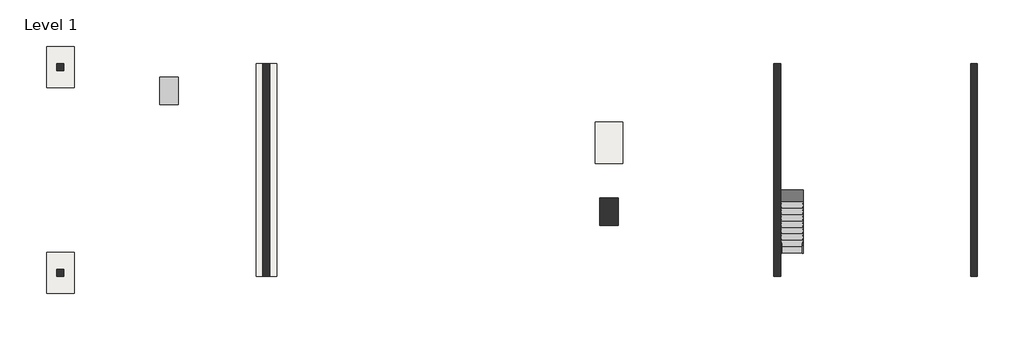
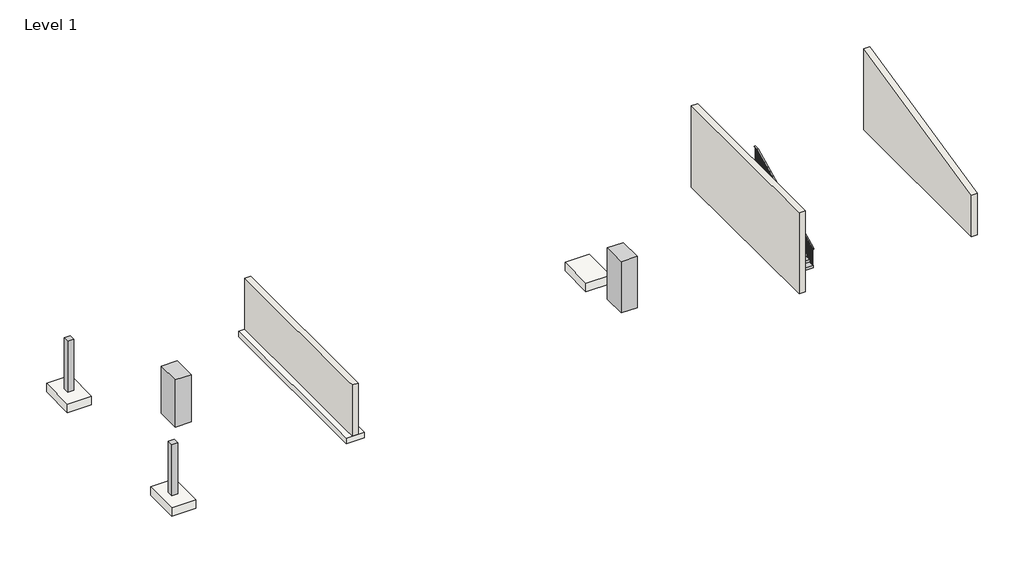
# One storey, incomplete: 4 columns, 3 slabs, 3 walls, 2 railings, 1 footing, 1 stair flight.
"""IFC4 building model written with IfcOpenShell, lengths in millimetres."""

from ifc_helpers import new_model, si_unit, frame, origin, origin_with_axes, place, context, project, spatial, polyline, outline, extrude, faceted_brep, transform, mapped, element, save
from components import m_concrete_rectangular_column_600_x_750mm_d22e657e, m_concrete_rectangular_column_600_x_750mm_b28e52ee, m_footing_rectangular_1800_x_1200_x_450mm_16ba7ea5

model = new_model("IFC4")

# Units and contexts
model_context = context("Model", 3, world=origin())
ifc_project = project(units=[si_unit("LENGTHUNIT", "METRE", prefix="MILLI")], contexts=[model_context])

# Site, building, storey
site = spatial("IfcSite", under=ifc_project)
building = spatial("IfcBuilding", under=site)
storey = spatial("IfcBuildingStorey", under=building, Name="Level 1", Elevation=0.0)

# Columns
placement = place(None, origin())
m_concrete_rectangular_column_600_x_750mm_shape = m_concrete_rectangular_column_600_x_750mm_d22e657e(model_context)
element("IfcColumn", 1, ObjectType="M_Concrete-Rectangular-Column : 600 x 750mm", at=placement, inside=storey, context=model_context, shape_type="MappedRepresentation", body=[
    mapped(m_concrete_rectangular_column_600_x_750mm_shape, transform((2063.6329779, -500.8037364, 0.0), x_axis=(1.0, 0.0, 0.0), y_axis=(0.0, 1.0, 0.0), z_axis=(0.0, 0.0, 1.0))),
])
m_concrete_rectangular_column_600_x_750mm_2_shape = m_concrete_rectangular_column_600_x_750mm_b28e52ee(model_context)
element("IfcColumn", 2, ObjectType="M_Concrete-Rectangular-Column : 600 x 750mm", at=placement, inside=storey, context=model_context, shape_type="MappedRepresentation", body=[
    mapped(m_concrete_rectangular_column_600_x_750mm_2_shape, transform((-17149.5589359, 4764.3262593, 0.0), x_axis=(1.0, 0.0, 0.0), y_axis=(0.0, 1.0, 0.0), z_axis=(0.0, 0.0, 1.0))),
])
element("IfcColumn", 3, ObjectType="M_Concrete-Square-Column : 300 x 300mm", at=placement, inside=storey, context=model_context, shape_type="SweptSolid", body=[
    extrude(outline(polyline([(-21749.5589359, 5964.3262593), (-21749.5589359, 5664.3262593), (-22049.5589359, 5664.3262593), (-22049.5589359, 5964.3262593), (-21749.5589359, 5964.3262593)])), origin_with_axes(), (0.0, 0.0, 1.0), 2700.0),
])
element("IfcColumn", 4, ObjectType="M_Concrete-Square-Column : 300 x 300mm", at=placement, inside=storey, context=model_context, shape_type="SweptSolid", body=[
    extrude(outline(polyline([(-21749.5589359, -3035.6737407), (-21749.5589359, -3335.6737407), (-22049.5589359, -3335.6737407), (-22049.5589359, -3035.6737407), (-21749.5589359, -3035.6737407)])), origin_with_axes(), (0.0, 0.0, 1.0), 2700.0),
])

# Footing
element("IfcFooting", 5, ObjectType="Bearing Footing - 900 x 300", at=placement, inside=storey, context=model_context, shape_type="SweptSolid", body=[
    extrude(outline(polyline([(-13349.5589359, 5964.3262593), (-12449.5589359, 5964.3262593), (-12449.5589359, -3335.6737407), (-13349.5589359, -3335.6737407), (-13349.5589359, 5964.3262593)])), frame((0.0, 0.0, -300.0), z_axis=(0.0, 0.0, 1.0), x_axis=(1.0, 0.0, 0.0)), (0.0, 0.0, 1.0), 300.0),
])

# Railings
element("IfcRailing", 6, ObjectType="900mm", at=placement, inside=storey, context=model_context, shape_type="SolidModel", body=[
    faceted_brep([(10500.0410641, -2335.6737407, 1038.8888889), (10500.0410641, -2335.6737407, 983.0756402), (10550.0410641, -2335.6737407, 983.0756402), (10550.0410641, -2335.6737407, 1038.8888889), (10500.0410641, 2424.3262593, 3400.0), (10500.0410641, 2436.0457687, 3350.0), (10550.0410641, 2436.0457687, 3350.0), (10550.0410641, 2424.3262593, 3400.0), (10500.0410641, 2704.3262593, 3400.0), (10550.0410641, 2704.3262593, 3400.0), (10550.0410641, 2704.3262593, 3350.0), (10500.0410641, 2704.3262593, 3350.0)], [[[0, 1, 2, 3]], [[1, 0, 4, 5]], [[2, 1, 5, 6]], [[3, 2, 6, 7]], [[0, 3, 7, 4]], [[8, 9, 10, 11]], [[5, 4, 8, 11]], [[6, 5, 11, 10]], [[7, 6, 10, 9]], [[4, 7, 9, 8]]]),
    extrude(outline(polyline([(10535.0410641, 2624.3262593), (10515.0410641, 2624.3262593), (10515.0410641, 2644.3262593), (10535.0410641, 2644.3262593), (10535.0410641, 2624.3262593)])), frame((0.0, 0.0, 2500.0), z_axis=(0.0, 0.0, 1.0), x_axis=(1.0, 0.0, 0.0)), (0.0, 0.0, 1.0), 850.0),
    extrude(outline(polyline([(10535.0410641, 2484.3262593), (10515.0410641, 2484.3262593), (10515.0410641, 2504.3262593), (10535.0410641, 2504.3262593), (10535.0410641, 2484.3262593)])), frame((0.0, 0.0, 2500.0), z_axis=(0.0, 0.0, 1.0), x_axis=(1.0, 0.0, 0.0)), (0.0, 0.0, 1.0), 850.0),
    extrude(outline(polyline([(2344.3262593, 2361.1111111), (2344.3262593, 3304.5042116), (2364.3262593, 3314.4248465), (2364.3262593, 2361.1111111), (2344.3262593, 2361.1111111)])), frame((10515.0410641, 0.0, 0.0), z_axis=(1.0, 0.0, 0.0), x_axis=(0.0, 1.0, 0.0)), (0.0, 0.0, 1.0), 20.0),
    extrude(outline(polyline([(2204.3262593, 2361.1111111), (2204.3262593, 3235.0597672), (2224.3262593, 3244.9804021), (2224.3262593, 2361.1111111), (2204.3262593, 2361.1111111)])), frame((10515.0410641, 0.0, 0.0), z_axis=(1.0, 0.0, 0.0), x_axis=(0.0, 1.0, 0.0)), (0.0, 0.0, 1.0), 20.0),
    extrude(outline(polyline([(2064.3262593, 2222.2222222), (2064.3262593, 3165.6153227), (2084.3262593, 3175.5359576), (2084.3262593, 2222.2222222), (2064.3262593, 2222.2222222)])), frame((10515.0410641, 0.0, 0.0), z_axis=(1.0, 0.0, 0.0), x_axis=(0.0, 1.0, 0.0)), (0.0, 0.0, 1.0), 20.0),
    extrude(outline(polyline([(1924.3262593, 2222.2222222), (1924.3262593, 3096.1708783), (1944.3262593, 3106.0915132), (1944.3262593, 2222.2222222), (1924.3262593, 2222.2222222)])), frame((10515.0410641, 0.0, 0.0), z_axis=(1.0, 0.0, 0.0), x_axis=(0.0, 1.0, 0.0)), (0.0, 0.0, 1.0), 20.0),
    extrude(outline(polyline([(1784.3262593, 2083.3333333), (1784.3262593, 3026.7264338), (1804.3262593, 3036.6470687), (1804.3262593, 2083.3333333), (1784.3262593, 2083.3333333)])), frame((10515.0410641, 0.0, 0.0), z_axis=(1.0, 0.0, 0.0), x_axis=(0.0, 1.0, 0.0)), (0.0, 0.0, 1.0), 20.0),
    extrude(outline(polyline([(1644.3262593, 2083.3333333), (1644.3262593, 2957.2819894), (1664.3262593, 2967.2026243), (1664.3262593, 2083.3333333), (1644.3262593, 2083.3333333)])), frame((10515.0410641, 0.0, 0.0), z_axis=(1.0, 0.0, 0.0), x_axis=(0.0, 1.0, 0.0)), (0.0, 0.0, 1.0), 20.0),
    extrude(outline(polyline([(1504.3262593, 1944.4444444), (1504.3262593, 2887.8375449), (1524.3262593, 2897.7581799), (1524.3262593, 1944.4444444), (1504.3262593, 1944.4444444)])), frame((10515.0410641, 0.0, 0.0), z_axis=(1.0, 0.0, 0.0), x_axis=(0.0, 1.0, 0.0)), (0.0, 0.0, 1.0), 20.0),
    extrude(outline(polyline([(1364.3262593, 1944.4444444), (1364.3262593, 2818.3931005), (1384.3262593, 2828.3137354), (1384.3262593, 1944.4444444), (1364.3262593, 1944.4444444)])), frame((10515.0410641, 0.0, 0.0), z_axis=(1.0, 0.0, 0.0), x_axis=(0.0, 1.0, 0.0)), (0.0, 0.0, 1.0), 20.0),
    extrude(outline(polyline([(1224.3262593, 1805.5555556), (1224.3262593, 2748.948656), (1244.3262593, 2758.869291), (1244.3262593, 1805.5555556), (1224.3262593, 1805.5555556)])), frame((10515.0410641, 0.0, 0.0), z_axis=(1.0, 0.0, 0.0), x_axis=(0.0, 1.0, 0.0)), (0.0, 0.0, 1.0), 20.0),
    extrude(outline(polyline([(1084.3262593, 1805.5555556), (1084.3262593, 2679.5042116), (1104.3262593, 2689.4248465), (1104.3262593, 1805.5555556), (1084.3262593, 1805.5555556)])), frame((10515.0410641, 0.0, 0.0), z_axis=(1.0, 0.0, 0.0), x_axis=(0.0, 1.0, 0.0)), (0.0, 0.0, 1.0), 20.0),
    extrude(outline(polyline([(944.3262593, 1666.6666667), (944.3262593, 2610.0597672), (964.3262593, 2619.9804021), (964.3262593, 1666.6666667), (944.3262593, 1666.6666667)])), frame((10515.0410641, 0.0, 0.0), z_axis=(1.0, 0.0, 0.0), x_axis=(0.0, 1.0, 0.0)), (0.0, 0.0, 1.0), 20.0),
    extrude(outline(polyline([(804.3262593, 1666.6666667), (804.3262593, 2540.6153227), (824.3262593, 2550.5359576), (824.3262593, 1666.6666667), (804.3262593, 1666.6666667)])), frame((10515.0410641, 0.0, 0.0), z_axis=(1.0, 0.0, 0.0), x_axis=(0.0, 1.0, 0.0)), (0.0, 0.0, 1.0), 20.0),
    extrude(outline(polyline([(664.3262593, 1527.7777778), (664.3262593, 2471.1708783), (684.3262593, 2481.0915132), (684.3262593, 1527.7777778), (664.3262593, 1527.7777778)])), frame((10515.0410641, 0.0, 0.0), z_axis=(1.0, 0.0, 0.0), x_axis=(0.0, 1.0, 0.0)), (0.0, 0.0, 1.0), 20.0),
    extrude(outline(polyline([(524.3262593, 1527.7777778), (524.3262593, 2401.7264338), (544.3262593, 2411.6470687), (544.3262593, 1527.7777778), (524.3262593, 1527.7777778)])), frame((10515.0410641, 0.0, 0.0), z_axis=(1.0, 0.0, 0.0), x_axis=(0.0, 1.0, 0.0)), (0.0, 0.0, 1.0), 20.0),
    extrude(outline(polyline([(384.3262593, 1388.8888889), (384.3262593, 2332.2819894), (404.3262593, 2342.2026243), (404.3262593, 1388.8888889), (384.3262593, 1388.8888889)])), frame((10515.0410641, 0.0, 0.0), z_axis=(1.0, 0.0, 0.0), x_axis=(0.0, 1.0, 0.0)), (0.0, 0.0, 1.0), 20.0),
    extrude(outline(polyline([(244.3262593, 1388.8888889), (244.3262593, 2262.8375449), (264.3262593, 2272.7581799), (264.3262593, 1388.8888889), (244.3262593, 1388.8888889)])), frame((10515.0410641, 0.0, 0.0), z_axis=(1.0, 0.0, 0.0), x_axis=(0.0, 1.0, 0.0)), (0.0, 0.0, 1.0), 20.0),
    extrude(outline(polyline([(104.3262593, 1250.0), (104.3262593, 2193.3931005), (124.3262593, 2203.3137354), (124.3262593, 1250.0), (104.3262593, 1250.0)])), frame((10515.0410641, 0.0, 0.0), z_axis=(1.0, 0.0, 0.0), x_axis=(0.0, 1.0, 0.0)), (0.0, 0.0, 1.0), 20.0),
    extrude(outline(polyline([(-35.6737407, 1250.0), (-35.6737407, 2123.948656), (-15.6737407, 2133.869291), (-15.6737407, 1250.0), (-35.6737407, 1250.0)])), frame((10515.0410641, 0.0, 0.0), z_axis=(1.0, 0.0, 0.0), x_axis=(0.0, 1.0, 0.0)), (0.0, 0.0, 1.0), 20.0),
    extrude(outline(polyline([(-175.6737407, 1111.1111111), (-175.6737407, 2054.5042116), (-155.6737407, 2064.4248465), (-155.6737407, 1111.1111111), (-175.6737407, 1111.1111111)])), frame((10515.0410641, 0.0, 0.0), z_axis=(1.0, 0.0, 0.0), x_axis=(0.0, 1.0, 0.0)), (0.0, 0.0, 1.0), 20.0),
    extrude(outline(polyline([(-315.6737407, 1111.1111111), (-315.6737407, 1985.0597672), (-295.6737407, 1994.9804021), (-295.6737407, 1111.1111111), (-315.6737407, 1111.1111111)])), frame((10515.0410641, 0.0, 0.0), z_axis=(1.0, 0.0, 0.0), x_axis=(0.0, 1.0, 0.0)), (0.0, 0.0, 1.0), 20.0),
    extrude(outline(polyline([(-455.6737407, 972.2222222), (-455.6737407, 1915.6153227), (-435.6737407, 1925.5359576), (-435.6737407, 972.2222222), (-455.6737407, 972.2222222)])), frame((10515.0410641, 0.0, 0.0), z_axis=(1.0, 0.0, 0.0), x_axis=(0.0, 1.0, 0.0)), (0.0, 0.0, 1.0), 20.0),
    extrude(outline(polyline([(-595.6737407, 972.2222222), (-595.6737407, 1846.1708783), (-575.6737407, 1856.0915132), (-575.6737407, 972.2222222), (-595.6737407, 972.2222222)])), frame((10515.0410641, 0.0, 0.0), z_axis=(1.0, 0.0, 0.0), x_axis=(0.0, 1.0, 0.0)), (0.0, 0.0, 1.0), 20.0),
    extrude(outline(polyline([(-735.6737407, 833.3333333), (-735.6737407, 1776.7264338), (-715.6737407, 1786.6470687), (-715.6737407, 833.3333333), (-735.6737407, 833.3333333)])), frame((10515.0410641, 0.0, 0.0), z_axis=(1.0, 0.0, 0.0), x_axis=(0.0, 1.0, 0.0)), (0.0, 0.0, 1.0), 20.0),
    extrude(outline(polyline([(-875.6737407, 833.3333333), (-875.6737407, 1707.2819894), (-855.6737407, 1717.2026243), (-855.6737407, 833.3333333), (-875.6737407, 833.3333333)])), frame((10515.0410641, 0.0, 0.0), z_axis=(1.0, 0.0, 0.0), x_axis=(0.0, 1.0, 0.0)), (0.0, 0.0, 1.0), 20.0),
    extrude(outline(polyline([(-1015.6737407, 694.4444444), (-1015.6737407, 1637.8375449), (-995.6737407, 1647.7581799), (-995.6737407, 694.4444444), (-1015.6737407, 694.4444444)])), frame((10515.0410641, 0.0, 0.0), z_axis=(1.0, 0.0, 0.0), x_axis=(0.0, 1.0, 0.0)), (0.0, 0.0, 1.0), 20.0),
    extrude(outline(polyline([(-1155.6737407, 694.4444444), (-1155.6737407, 1568.3931005), (-1135.6737407, 1578.3137354), (-1135.6737407, 694.4444444), (-1155.6737407, 694.4444444)])), frame((10515.0410641, 0.0, 0.0), z_axis=(1.0, 0.0, 0.0), x_axis=(0.0, 1.0, 0.0)), (0.0, 0.0, 1.0), 20.0),
    extrude(outline(polyline([(-1295.6737407, 555.5555556), (-1295.6737407, 1498.948656), (-1275.6737407, 1508.869291), (-1275.6737407, 555.5555556), (-1295.6737407, 555.5555556)])), frame((10515.0410641, 0.0, 0.0), z_axis=(1.0, 0.0, 0.0), x_axis=(0.0, 1.0, 0.0)), (0.0, 0.0, 1.0), 20.0),
    extrude(outline(polyline([(-1435.6737407, 555.5555556), (-1435.6737407, 1429.5042116), (-1415.6737407, 1439.4248465), (-1415.6737407, 555.5555556), (-1435.6737407, 555.5555556)])), frame((10515.0410641, 0.0, 0.0), z_axis=(1.0, 0.0, 0.0), x_axis=(0.0, 1.0, 0.0)), (0.0, 0.0, 1.0), 20.0),
    extrude(outline(polyline([(-1575.6737407, 416.6666667), (-1575.6737407, 1360.0597672), (-1555.6737407, 1369.9804021), (-1555.6737407, 416.6666667), (-1575.6737407, 416.6666667)])), frame((10515.0410641, 0.0, 0.0), z_axis=(1.0, 0.0, 0.0), x_axis=(0.0, 1.0, 0.0)), (0.0, 0.0, 1.0), 20.0),
    extrude(outline(polyline([(-1715.6737407, 416.6666667), (-1715.6737407, 1290.6153227), (-1695.6737407, 1300.5359576), (-1695.6737407, 416.6666667), (-1715.6737407, 416.6666667)])), frame((10515.0410641, 0.0, 0.0), z_axis=(1.0, 0.0, 0.0), x_axis=(0.0, 1.0, 0.0)), (0.0, 0.0, 1.0), 20.0),
    extrude(outline(polyline([(-1855.6737407, 277.7777778), (-1855.6737407, 1221.1708783), (-1835.6737407, 1231.0915132), (-1835.6737407, 277.7777778), (-1855.6737407, 277.7777778)])), frame((10515.0410641, 0.0, 0.0), z_axis=(1.0, 0.0, 0.0), x_axis=(0.0, 1.0, 0.0)), (0.0, 0.0, 1.0), 20.0),
    extrude(outline(polyline([(-1995.6737407, 277.7777778), (-1995.6737407, 1151.7264338), (-1975.6737407, 1161.6470687), (-1975.6737407, 277.7777778), (-1995.6737407, 277.7777778)])), frame((10515.0410641, 0.0, 0.0), z_axis=(1.0, 0.0, 0.0), x_axis=(0.0, 1.0, 0.0)), (0.0, 0.0, 1.0), 20.0),
    extrude(outline(polyline([(-2135.6737407, 138.8888889), (-2135.6737407, 1082.2819894), (-2115.6737407, 1092.2026243), (-2115.6737407, 138.8888889), (-2135.6737407, 138.8888889)])), frame((10515.0410641, 0.0, 0.0), z_axis=(1.0, 0.0, 0.0), x_axis=(0.0, 1.0, 0.0)), (0.0, 0.0, 1.0), 20.0),
    extrude(outline(polyline([(-2275.6737407, 138.8888889), (-2275.6737407, 1012.8375449), (-2255.6737407, 1022.7581799), (-2255.6737407, 138.8888889), (-2275.6737407, 138.8888889)])), frame((10515.0410641, 0.0, 0.0), z_axis=(1.0, 0.0, 0.0), x_axis=(0.0, 1.0, 0.0)), (0.0, 0.0, 1.0), 20.0),
])
element("IfcRailing", 7, ObjectType="900mm", at=placement, inside=storey, context=model_context, shape_type="SolidModel", body=[
    faceted_brep([(9550.8410641, -2335.6737407, 1038.8888889), (9550.8410641, -2335.6737407, 983.0756402), (9600.8410641, -2335.6737407, 983.0756402), (9600.8410641, -2335.6737407, 1038.8888889), (9550.8410641, 2424.3262593, 3400.0), (9550.8410641, 2436.0457687, 3350.0), (9600.8410641, 2436.0457687, 3350.0), (9600.8410641, 2424.3262593, 3400.0), (9550.8410641, 2704.3262593, 3400.0), (9600.8410641, 2704.3262593, 3400.0), (9600.8410641, 2704.3262593, 3350.0), (9550.8410641, 2704.3262593, 3350.0)], [[[0, 1, 2, 3]], [[1, 0, 4, 5]], [[2, 1, 5, 6]], [[3, 2, 6, 7]], [[0, 3, 7, 4]], [[8, 9, 10, 11]], [[5, 4, 8, 11]], [[6, 5, 11, 10]], [[7, 6, 10, 9]], [[4, 7, 9, 8]]]),
    extrude(outline(polyline([(9565.8410641, 2624.3262593), (9565.8410641, 2644.3262593), (9585.8410641, 2644.3262593), (9585.8410641, 2624.3262593), (9565.8410641, 2624.3262593)])), frame((0.0, 0.0, 2500.0), z_axis=(0.0, 0.0, 1.0), x_axis=(1.0, 0.0, 0.0)), (0.0, 0.0, 1.0), 850.0),
    extrude(outline(polyline([(9565.8410641, 2484.3262593), (9565.8410641, 2504.3262593), (9585.8410641, 2504.3262593), (9585.8410641, 2484.3262593), (9565.8410641, 2484.3262593)])), frame((0.0, 0.0, 2500.0), z_axis=(0.0, 0.0, 1.0), x_axis=(1.0, 0.0, 0.0)), (0.0, 0.0, 1.0), 850.0),
    extrude(outline(polyline([(2344.3262593, 3304.5042116), (2364.3262593, 3314.4248465), (2364.3262593, 2361.1111111), (2344.3262593, 2361.1111111), (2344.3262593, 3304.5042116)])), frame((9565.8410641, 0.0, 0.0), z_axis=(1.0, 0.0, 0.0), x_axis=(0.0, 1.0, 0.0)), (0.0, 0.0, 1.0), 20.0),
    extrude(outline(polyline([(2204.3262593, 3235.0597672), (2224.3262593, 3244.9804021), (2224.3262593, 2361.1111111), (2204.3262593, 2361.1111111), (2204.3262593, 3235.0597672)])), frame((9565.8410641, 0.0, 0.0), z_axis=(1.0, 0.0, 0.0), x_axis=(0.0, 1.0, 0.0)), (0.0, 0.0, 1.0), 20.0),
    extrude(outline(polyline([(2064.3262593, 3165.6153227), (2084.3262593, 3175.5359576), (2084.3262593, 2222.2222222), (2064.3262593, 2222.2222222), (2064.3262593, 3165.6153227)])), frame((9565.8410641, 0.0, 0.0), z_axis=(1.0, 0.0, 0.0), x_axis=(0.0, 1.0, 0.0)), (0.0, 0.0, 1.0), 20.0),
    extrude(outline(polyline([(1924.3262593, 3096.1708783), (1944.3262593, 3106.0915132), (1944.3262593, 2222.2222222), (1924.3262593, 2222.2222222), (1924.3262593, 3096.1708783)])), frame((9565.8410641, 0.0, 0.0), z_axis=(1.0, 0.0, 0.0), x_axis=(0.0, 1.0, 0.0)), (0.0, 0.0, 1.0), 20.0),
    extrude(outline(polyline([(1784.3262593, 3026.7264338), (1804.3262593, 3036.6470687), (1804.3262593, 2083.3333333), (1784.3262593, 2083.3333333), (1784.3262593, 3026.7264338)])), frame((9565.8410641, 0.0, 0.0), z_axis=(1.0, 0.0, 0.0), x_axis=(0.0, 1.0, 0.0)), (0.0, 0.0, 1.0), 20.0),
    extrude(outline(polyline([(1644.3262593, 2957.2819894), (1664.3262593, 2967.2026243), (1664.3262593, 2083.3333333), (1644.3262593, 2083.3333333), (1644.3262593, 2957.2819894)])), frame((9565.8410641, 0.0, 0.0), z_axis=(1.0, 0.0, 0.0), x_axis=(0.0, 1.0, 0.0)), (0.0, 0.0, 1.0), 20.0),
    extrude(outline(polyline([(1504.3262593, 2887.8375449), (1524.3262593, 2897.7581799), (1524.3262593, 1944.4444444), (1504.3262593, 1944.4444444), (1504.3262593, 2887.8375449)])), frame((9565.8410641, 0.0, 0.0), z_axis=(1.0, 0.0, 0.0), x_axis=(0.0, 1.0, 0.0)), (0.0, 0.0, 1.0), 20.0),
    extrude(outline(polyline([(1364.3262593, 2818.3931005), (1384.3262593, 2828.3137354), (1384.3262593, 1944.4444444), (1364.3262593, 1944.4444444), (1364.3262593, 2818.3931005)])), frame((9565.8410641, 0.0, 0.0), z_axis=(1.0, 0.0, 0.0), x_axis=(0.0, 1.0, 0.0)), (0.0, 0.0, 1.0), 20.0),
    extrude(outline(polyline([(1224.3262593, 2748.948656), (1244.3262593, 2758.869291), (1244.3262593, 1805.5555556), (1224.3262593, 1805.5555556), (1224.3262593, 2748.948656)])), frame((9565.8410641, 0.0, 0.0), z_axis=(1.0, 0.0, 0.0), x_axis=(0.0, 1.0, 0.0)), (0.0, 0.0, 1.0), 20.0),
    extrude(outline(polyline([(1084.3262593, 2679.5042116), (1104.3262593, 2689.4248465), (1104.3262593, 1805.5555556), (1084.3262593, 1805.5555556), (1084.3262593, 2679.5042116)])), frame((9565.8410641, 0.0, 0.0), z_axis=(1.0, 0.0, 0.0), x_axis=(0.0, 1.0, 0.0)), (0.0, 0.0, 1.0), 20.0),
    extrude(outline(polyline([(944.3262593, 2610.0597672), (964.3262593, 2619.9804021), (964.3262593, 1666.6666667), (944.3262593, 1666.6666667), (944.3262593, 2610.0597672)])), frame((9565.8410641, 0.0, 0.0), z_axis=(1.0, 0.0, 0.0), x_axis=(0.0, 1.0, 0.0)), (0.0, 0.0, 1.0), 20.0),
    extrude(outline(polyline([(804.3262593, 2540.6153227), (824.3262593, 2550.5359576), (824.3262593, 1666.6666667), (804.3262593, 1666.6666667), (804.3262593, 2540.6153227)])), frame((9565.8410641, 0.0, 0.0), z_axis=(1.0, 0.0, 0.0), x_axis=(0.0, 1.0, 0.0)), (0.0, 0.0, 1.0), 20.0),
    extrude(outline(polyline([(664.3262593, 2471.1708783), (684.3262593, 2481.0915132), (684.3262593, 1527.7777778), (664.3262593, 1527.7777778), (664.3262593, 2471.1708783)])), frame((9565.8410641, 0.0, 0.0), z_axis=(1.0, 0.0, 0.0), x_axis=(0.0, 1.0, 0.0)), (0.0, 0.0, 1.0), 20.0),
    extrude(outline(polyline([(524.3262593, 2401.7264338), (544.3262593, 2411.6470687), (544.3262593, 1527.7777778), (524.3262593, 1527.7777778), (524.3262593, 2401.7264338)])), frame((9565.8410641, 0.0, 0.0), z_axis=(1.0, 0.0, 0.0), x_axis=(0.0, 1.0, 0.0)), (0.0, 0.0, 1.0), 20.0),
    extrude(outline(polyline([(384.3262593, 2332.2819894), (404.3262593, 2342.2026243), (404.3262593, 1388.8888889), (384.3262593, 1388.8888889), (384.3262593, 2332.2819894)])), frame((9565.8410641, 0.0, 0.0), z_axis=(1.0, 0.0, 0.0), x_axis=(0.0, 1.0, 0.0)), (0.0, 0.0, 1.0), 20.0),
    extrude(outline(polyline([(244.3262593, 2262.8375449), (264.3262593, 2272.7581799), (264.3262593, 1388.8888889), (244.3262593, 1388.8888889), (244.3262593, 2262.8375449)])), frame((9565.8410641, 0.0, 0.0), z_axis=(1.0, 0.0, 0.0), x_axis=(0.0, 1.0, 0.0)), (0.0, 0.0, 1.0), 20.0),
    extrude(outline(polyline([(104.3262593, 2193.3931005), (124.3262593, 2203.3137354), (124.3262593, 1250.0), (104.3262593, 1250.0), (104.3262593, 2193.3931005)])), frame((9565.8410641, 0.0, 0.0), z_axis=(1.0, 0.0, 0.0), x_axis=(0.0, 1.0, 0.0)), (0.0, 0.0, 1.0), 20.0),
    extrude(outline(polyline([(-35.6737407, 2123.948656), (-15.6737407, 2133.869291), (-15.6737407, 1250.0), (-35.6737407, 1250.0), (-35.6737407, 2123.948656)])), frame((9565.8410641, 0.0, 0.0), z_axis=(1.0, 0.0, 0.0), x_axis=(0.0, 1.0, 0.0)), (0.0, 0.0, 1.0), 20.0),
    extrude(outline(polyline([(-175.6737407, 2054.5042116), (-155.6737407, 2064.4248465), (-155.6737407, 1111.1111111), (-175.6737407, 1111.1111111), (-175.6737407, 2054.5042116)])), frame((9565.8410641, 0.0, 0.0), z_axis=(1.0, 0.0, 0.0), x_axis=(0.0, 1.0, 0.0)), (0.0, 0.0, 1.0), 20.0),
    extrude(outline(polyline([(-315.6737407, 1985.0597672), (-295.6737407, 1994.9804021), (-295.6737407, 1111.1111111), (-315.6737407, 1111.1111111), (-315.6737407, 1985.0597672)])), frame((9565.8410641, 0.0, 0.0), z_axis=(1.0, 0.0, 0.0), x_axis=(0.0, 1.0, 0.0)), (0.0, 0.0, 1.0), 20.0),
    extrude(outline(polyline([(-455.6737407, 1915.6153227), (-435.6737407, 1925.5359576), (-435.6737407, 972.2222222), (-455.6737407, 972.2222222), (-455.6737407, 1915.6153227)])), frame((9565.8410641, 0.0, 0.0), z_axis=(1.0, 0.0, 0.0), x_axis=(0.0, 1.0, 0.0)), (0.0, 0.0, 1.0), 20.0),
    extrude(outline(polyline([(-595.6737407, 1846.1708783), (-575.6737407, 1856.0915132), (-575.6737407, 972.2222222), (-595.6737407, 972.2222222), (-595.6737407, 1846.1708783)])), frame((9565.8410641, 0.0, 0.0), z_axis=(1.0, 0.0, 0.0), x_axis=(0.0, 1.0, 0.0)), (0.0, 0.0, 1.0), 20.0),
    extrude(outline(polyline([(-735.6737407, 1776.7264338), (-715.6737407, 1786.6470687), (-715.6737407, 833.3333333), (-735.6737407, 833.3333333), (-735.6737407, 1776.7264338)])), frame((9565.8410641, 0.0, 0.0), z_axis=(1.0, 0.0, 0.0), x_axis=(0.0, 1.0, 0.0)), (0.0, 0.0, 1.0), 20.0),
    extrude(outline(polyline([(-875.6737407, 1707.2819894), (-855.6737407, 1717.2026243), (-855.6737407, 833.3333333), (-875.6737407, 833.3333333), (-875.6737407, 1707.2819894)])), frame((9565.8410641, 0.0, 0.0), z_axis=(1.0, 0.0, 0.0), x_axis=(0.0, 1.0, 0.0)), (0.0, 0.0, 1.0), 20.0),
    extrude(outline(polyline([(-1015.6737407, 1637.8375449), (-995.6737407, 1647.7581799), (-995.6737407, 694.4444444), (-1015.6737407, 694.4444444), (-1015.6737407, 1637.8375449)])), frame((9565.8410641, 0.0, 0.0), z_axis=(1.0, 0.0, 0.0), x_axis=(0.0, 1.0, 0.0)), (0.0, 0.0, 1.0), 20.0),
    extrude(outline(polyline([(-1155.6737407, 1568.3931005), (-1135.6737407, 1578.3137354), (-1135.6737407, 694.4444444), (-1155.6737407, 694.4444444), (-1155.6737407, 1568.3931005)])), frame((9565.8410641, 0.0, 0.0), z_axis=(1.0, 0.0, 0.0), x_axis=(0.0, 1.0, 0.0)), (0.0, 0.0, 1.0), 20.0),
    extrude(outline(polyline([(-1295.6737407, 1498.948656), (-1275.6737407, 1508.869291), (-1275.6737407, 555.5555556), (-1295.6737407, 555.5555556), (-1295.6737407, 1498.948656)])), frame((9565.8410641, 0.0, 0.0), z_axis=(1.0, 0.0, 0.0), x_axis=(0.0, 1.0, 0.0)), (0.0, 0.0, 1.0), 20.0),
    extrude(outline(polyline([(-1435.6737407, 1429.5042116), (-1415.6737407, 1439.4248465), (-1415.6737407, 555.5555556), (-1435.6737407, 555.5555556), (-1435.6737407, 1429.5042116)])), frame((9565.8410641, 0.0, 0.0), z_axis=(1.0, 0.0, 0.0), x_axis=(0.0, 1.0, 0.0)), (0.0, 0.0, 1.0), 20.0),
    extrude(outline(polyline([(-1575.6737407, 1360.0597672), (-1555.6737407, 1369.9804021), (-1555.6737407, 416.6666667), (-1575.6737407, 416.6666667), (-1575.6737407, 1360.0597672)])), frame((9565.8410641, 0.0, 0.0), z_axis=(1.0, 0.0, 0.0), x_axis=(0.0, 1.0, 0.0)), (0.0, 0.0, 1.0), 20.0),
    extrude(outline(polyline([(-1715.6737407, 1290.6153227), (-1695.6737407, 1300.5359576), (-1695.6737407, 416.6666667), (-1715.6737407, 416.6666667), (-1715.6737407, 1290.6153227)])), frame((9565.8410641, 0.0, 0.0), z_axis=(1.0, 0.0, 0.0), x_axis=(0.0, 1.0, 0.0)), (0.0, 0.0, 1.0), 20.0),
    extrude(outline(polyline([(-1855.6737407, 1221.1708783), (-1835.6737407, 1231.0915132), (-1835.6737407, 277.7777778), (-1855.6737407, 277.7777778), (-1855.6737407, 1221.1708783)])), frame((9565.8410641, 0.0, 0.0), z_axis=(1.0, 0.0, 0.0), x_axis=(0.0, 1.0, 0.0)), (0.0, 0.0, 1.0), 20.0),
    extrude(outline(polyline([(-1995.6737407, 1151.7264338), (-1975.6737407, 1161.6470687), (-1975.6737407, 277.7777778), (-1995.6737407, 277.7777778), (-1995.6737407, 1151.7264338)])), frame((9565.8410641, 0.0, 0.0), z_axis=(1.0, 0.0, 0.0), x_axis=(0.0, 1.0, 0.0)), (0.0, 0.0, 1.0), 20.0),
    extrude(outline(polyline([(-2135.6737407, 1082.2819894), (-2115.6737407, 1092.2026243), (-2115.6737407, 138.8888889), (-2135.6737407, 138.8888889), (-2135.6737407, 1082.2819894)])), frame((9565.8410641, 0.0, 0.0), z_axis=(1.0, 0.0, 0.0), x_axis=(0.0, 1.0, 0.0)), (0.0, 0.0, 1.0), 20.0),
    extrude(outline(polyline([(-2275.6737407, 1012.8375449), (-2255.6737407, 1022.7581799), (-2255.6737407, 138.8888889), (-2275.6737407, 138.8888889), (-2275.6737407, 1012.8375449)])), frame((9565.8410641, 0.0, 0.0), z_axis=(1.0, 0.0, 0.0), x_axis=(0.0, 1.0, 0.0)), (0.0, 0.0, 1.0), 20.0),
])

# Slabs
m_footing_rectangular_1800_x_1200_x_450mm_shape = m_footing_rectangular_1800_x_1200_x_450mm_16ba7ea5(model_context)
element("IfcSlab", 8, ObjectType="M_Footing-Rectangular : 1800 x 1200 x 450mm", at=placement, inside=storey, context=model_context, shape_type="MappedRepresentation", body=[
    mapped(m_footing_rectangular_1800_x_1200_x_450mm_shape, transform((2063.6329779, 2499.1962636, 0.0), x_axis=(1.0, 0.0, 0.0), y_axis=(0.0, 1.0, 0.0), z_axis=(0.0, 0.0, 1.0))),
])
element("IfcSlab", 9, ObjectType="M_Footing-Rectangular1 : 1800 x 1200 x 450mm 2", at=placement, inside=storey, context=model_context, shape_type="MappedRepresentation", body=[
    mapped(m_footing_rectangular_1800_x_1200_x_450mm_shape, transform((-21899.5589359, 5814.3262593, 0.0), x_axis=(1.0, 0.0, 0.0), y_axis=(0.0, 1.0, 0.0), z_axis=(0.0, 0.0, 1.0))),
])
element("IfcSlab", 10, ObjectType="M_Footing-Rectangular1 : 1800 x 1200 x 450mm 2", at=placement, inside=storey, context=model_context, shape_type="MappedRepresentation", body=[
    mapped(m_footing_rectangular_1800_x_1200_x_450mm_shape, transform((-21899.5589359, -3185.6737407, 0.0), x_axis=(1.0, 0.0, 0.0), y_axis=(0.0, 1.0, 0.0), z_axis=(0.0, 0.0, 1.0))),
])

# Stair flight
element("IfcStairFlight", 11, ObjectType="25 mm Nosing", at=placement, inside=storey, context=model_context, shape_type="Brep", body=[
    faceted_brep([(9550.4410641, -2030.6737407, 138.8888889), (9550.4410641, -2310.6737407, 138.8888889), (10550.4410641, -2310.6737407, 138.8888889), (10550.4410641, -2030.6737407, 138.8888889), (9550.4410641, -2030.6737407, 0.0), (9550.4410641, -2310.6737407, 0.0), (10550.4410641, -2310.6737407, 0.0), (10550.4410641, -2030.6737407, 0.0), (9550.4410641, -1750.6737407, 277.7777778), (9550.4410641, -2030.6737407, 277.7777778), (10550.4410641, -2030.6737407, 277.7777778), (10550.4410641, -1750.6737407, 277.7777778), (9550.4410641, -1750.6737407, 110.3380316), (9550.4410641, -1973.1152125, 0.0), (10550.4410641, -1973.1152125, 0.0), (10550.4410641, -1750.6737407, 110.3380316), (9550.4410641, -1470.6737407, 416.6666667), (9550.4410641, -1750.6737407, 416.6666667), (10550.4410641, -1750.6737407, 416.6666667), (10550.4410641, -1470.6737407, 416.6666667), (9550.4410641, -1470.6737407, 249.2269205), (10550.4410641, -1470.6737407, 249.2269205), (9550.4410641, -1190.6737407, 555.5555556), (9550.4410641, -1470.6737407, 555.5555556), (10550.4410641, -1470.6737407, 555.5555556), (10550.4410641, -1190.6737407, 555.5555556), (9550.4410641, -1190.6737407, 388.1158094), (10550.4410641, -1190.6737407, 388.1158094), (9550.4410641, -910.6737407, 694.4444444), (9550.4410641, -1190.6737407, 694.4444444), (10550.4410641, -1190.6737407, 694.4444444), (10550.4410641, -910.6737407, 694.4444444), (9550.4410641, -910.6737407, 527.0046983), (10550.4410641, -910.6737407, 527.0046983), (9550.4410641, -630.6737407, 833.3333333), (9550.4410641, -910.6737407, 833.3333333), (10550.4410641, -910.6737407, 833.3333333), (10550.4410641, -630.6737407, 833.3333333), (9550.4410641, -630.6737407, 665.8935872), (10550.4410641, -630.6737407, 665.8935872), (9550.4410641, -350.6737407, 972.2222222), (9550.4410641, -630.6737407, 972.2222222), (10550.4410641, -630.6737407, 972.2222222), (10550.4410641, -350.6737407, 972.2222222), (9550.4410641, -350.6737407, 804.7824761), (10550.4410641, -350.6737407, 804.7824761), (9550.4410641, -70.6737407, 1111.1111111), (9550.4410641, -350.6737407, 1111.1111111), (10550.4410641, -350.6737407, 1111.1111111), (10550.4410641, -70.6737407, 1111.1111111), (9550.4410641, -70.6737407, 943.671365), (10550.4410641, -70.6737407, 943.671365), (9550.4410641, 209.3262593, 1250.0), (9550.4410641, -70.6737407, 1250.0), (10550.4410641, -70.6737407, 1250.0), (10550.4410641, 209.3262593, 1250.0), (9550.4410641, 209.3262593, 1082.5602538), (10550.4410641, 209.3262593, 1082.5602538), (9550.4410641, 489.3262593, 1388.8888889), (9550.4410641, 209.3262593, 1388.8888889), (10550.4410641, 209.3262593, 1388.8888889), (10550.4410641, 489.3262593, 1388.8888889), (9550.4410641, 489.3262593, 1221.4491427), (10550.4410641, 489.3262593, 1221.4491427), (9550.4410641, 769.3262593, 1527.7777778), (9550.4410641, 489.3262593, 1527.7777778), (10550.4410641, 489.3262593, 1527.7777778), (10550.4410641, 769.3262593, 1527.7777778), (9550.4410641, 769.3262593, 1360.3380316), (10550.4410641, 769.3262593, 1360.3380316), (9550.4410641, 1049.3262593, 1666.6666667), (9550.4410641, 769.3262593, 1666.6666667), (10550.4410641, 769.3262593, 1666.6666667), (10550.4410641, 1049.3262593, 1666.6666667), (9550.4410641, 1049.3262593, 1499.2269205), (10550.4410641, 1049.3262593, 1499.2269205), (9550.4410641, 1329.3262593, 1805.5555556), (9550.4410641, 1049.3262593, 1805.5555556), (10550.4410641, 1049.3262593, 1805.5555556), (10550.4410641, 1329.3262593, 1805.5555556), (9550.4410641, 1329.3262593, 1638.1158094), (10550.4410641, 1329.3262593, 1638.1158094), (9550.4410641, 1609.3262593, 1944.4444444), (9550.4410641, 1329.3262593, 1944.4444444), (10550.4410641, 1329.3262593, 1944.4444444), (10550.4410641, 1609.3262593, 1944.4444444), (9550.4410641, 1609.3262593, 1777.0046983), (10550.4410641, 1609.3262593, 1777.0046983), (9550.4410641, 1889.3262593, 2083.3333333), (9550.4410641, 1609.3262593, 2083.3333333), (10550.4410641, 1609.3262593, 2083.3333333), (10550.4410641, 1889.3262593, 2083.3333333), (9550.4410641, 1889.3262593, 1915.8935872), (10550.4410641, 1889.3262593, 1915.8935872), (9550.4410641, 2169.3262593, 2222.2222222), (9550.4410641, 1889.3262593, 2222.2222222), (10550.4410641, 1889.3262593, 2222.2222222), (10550.4410641, 2169.3262593, 2222.2222222), (9550.4410641, 2169.3262593, 2054.7824761), (10550.4410641, 2169.3262593, 2054.7824761), (9550.4410641, 2449.3262593, 2361.1111111), (9550.4410641, 2169.3262593, 2361.1111111), (10550.4410641, 2169.3262593, 2361.1111111), (10550.4410641, 2449.3262593, 2361.1111111), (9550.4410641, 2449.3262593, 2193.671365), (10550.4410641, 2449.3262593, 2193.671365), (9550.4410641, 2704.3262593, 2500.0), (9550.4410641, 2449.3262593, 2500.0), (10550.4410641, 2449.3262593, 2500.0), (10550.4410641, 2704.3262593, 2500.0), (9550.4410641, 2704.3262593, 2320.1594602), (10550.4410641, 2704.3262593, 2320.1594602)], [[[0, 1, 2, 3]], [[1, 0, 4, 5]], [[2, 1, 5, 6]], [[3, 2, 6, 7]], [[8, 9, 10, 11]], [[4, 0, 9, 8, 12, 13]], [[0, 3, 10, 9]], [[3, 7, 14, 15, 11, 10]], [[16, 17, 18, 19]], [[17, 16, 20, 12, 8]], [[8, 11, 18, 17]], [[19, 18, 11, 15, 21]], [[22, 23, 24, 25]], [[23, 22, 26, 20, 16]], [[16, 19, 24, 23]], [[25, 24, 19, 21, 27]], [[28, 29, 30, 31]], [[29, 28, 32, 26, 22]], [[22, 25, 30, 29]], [[31, 30, 25, 27, 33]], [[34, 35, 36, 37]], [[35, 34, 38, 32, 28]], [[28, 31, 36, 35]], [[37, 36, 31, 33, 39]], [[40, 41, 42, 43]], [[41, 40, 44, 38, 34]], [[34, 37, 42, 41]], [[43, 42, 37, 39, 45]], [[46, 47, 48, 49]], [[47, 46, 50, 44, 40]], [[40, 43, 48, 47]], [[49, 48, 43, 45, 51]], [[52, 53, 54, 55]], [[53, 52, 56, 50, 46]], [[46, 49, 54, 53]], [[55, 54, 49, 51, 57]], [[58, 59, 60, 61]], [[59, 58, 62, 56, 52]], [[52, 55, 60, 59]], [[61, 60, 55, 57, 63]], [[64, 65, 66, 67]], [[65, 64, 68, 62, 58]], [[58, 61, 66, 65]], [[67, 66, 61, 63, 69]], [[70, 71, 72, 73]], [[71, 70, 74, 68, 64]], [[64, 67, 72, 71]], [[73, 72, 67, 69, 75]], [[76, 77, 78, 79]], [[77, 76, 80, 74, 70]], [[70, 73, 78, 77]], [[79, 78, 73, 75, 81]], [[82, 83, 84, 85]], [[83, 82, 86, 80, 76]], [[76, 79, 84, 83]], [[85, 84, 79, 81, 87]], [[88, 89, 90, 91]], [[89, 88, 92, 86, 82]], [[82, 85, 90, 89]], [[91, 90, 85, 87, 93]], [[94, 95, 96, 97]], [[95, 94, 98, 92, 88]], [[88, 91, 96, 95]], [[97, 96, 91, 93, 99]], [[100, 101, 102, 103]], [[101, 100, 104, 98, 94]], [[94, 97, 102, 101]], [[103, 102, 97, 99, 105]], [[106, 107, 108, 109]], [[107, 106, 110, 104, 100]], [[100, 103, 108, 107]], [[109, 108, 103, 105, 111]], [[106, 109, 111, 110]], [[5, 4, 13, 14, 7, 6]], [[14, 13, 12, 20, 26, 32, 38, 44, 50, 56, 62, 68, 74, 80, 86, 92, 98, 104, 110, 111, 105, 99, 93, 87, 81, 75, 69, 63, 57, 51, 45, 39, 33, 27, 21, 15]]]),
])

# Walls
element("IfcWall", 12, ObjectType="Foundation - 300mm Concrete", at=placement, inside=storey, context=model_context, shape_type="Brep", body=[
    faceted_brep([(-13049.5589359, 5964.3262593, 0.0), (-13049.5589359, -3335.6737407, 0.0), (-13049.5589359, -3335.6737407, 2100.0), (-13049.5589359, -3335.6737407, 2700.0), (-13049.5589359, -3035.6737407, 2700.0), (-13049.5589359, 5664.3262593, 2700.0), (-13049.5589359, 5964.3262593, 2700.0), (-13049.5589359, 5964.3262593, 2100.0), (-12749.5589359, 5964.3262593, 0.0), (-12749.5589359, 5964.3262593, 2700.0), (-12749.5589359, -3335.6737407, 2700.0), (-12749.5589359, -3335.6737407, 0.0)], [[[0, 1, 2, 3, 4, 5, 6, 7]], [[8, 9, 10, 11]], [[1, 0, 8, 11]], [[3, 2, 1, 11, 10]], [[6, 5, 4, 3, 10, 9]], [[0, 7, 6, 9, 8]]]),
])
element("IfcWall", 13, ObjectType="Foundation - 300mm Concrete", at=placement, inside=storey, context=model_context, shape_type="SweptSolid", body=[
    extrude(outline(polyline([(9250.4410641, -3335.6737407), (9250.4410641, 5964.3262593), (9550.4410641, 5964.3262593), (9550.4410641, -3335.6737407), (9250.4410641, -3335.6737407)])), frame((0.0, 0.0, -304.8032675), z_axis=(0.0, 0.0, 1.0), x_axis=(1.0, 0.0, 0.0)), (0.0, 0.0, 1.0), 4297.200981),
])
element("IfcWall", 14, ObjectType="Foundation - 300mm Concrete", at=placement, inside=storey, context=model_context, shape_type="SweptSolid", body=[
    extrude(outline(polyline([(5964.3262593, -304.8032675), (-3335.6737407, -304.8032675), (-3335.6737407, 1900.0), (5964.3262593, 3992.3977135), (5964.3262593, -304.8032675)])), frame((17850.4410641, 0.0, 0.0), z_axis=(1.0, 0.0, 0.0), x_axis=(0.0, 1.0, 0.0)), (0.0, 0.0, 1.0), 300.0),
])

save(model, "model.ifc")
